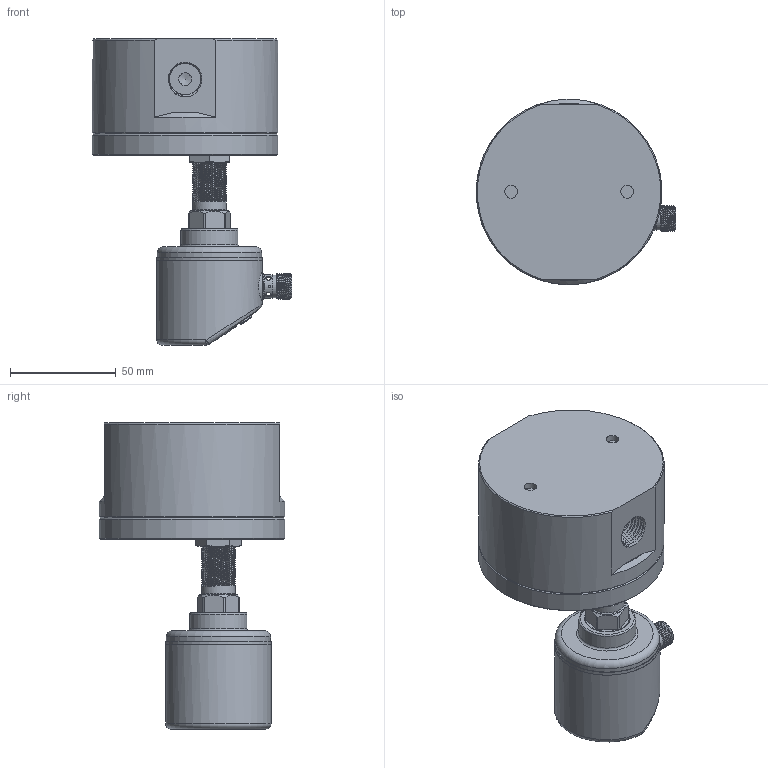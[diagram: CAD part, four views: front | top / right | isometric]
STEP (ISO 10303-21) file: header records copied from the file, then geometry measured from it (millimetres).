
FILE_DESCRIPTION (( 'STEP AP214' ), '1' );
FILE_NAME ('喘謫霜講數-M4.STEP', '2024-09-18T01:50:31', ( '' ), ( '' ), 'SwSTEP 2.0', 'SolidWorks 2020', '' );
FILE_SCHEMA (( 'AUTOMOTIVE_DESIGN' ));
Length unit declared in the file: millimetre
Products named in the file (13): PVC躇猾菜; 偌瑩簽; 揤薯奻裔; 喘謫霜講數-M4; 翋极; 滅阨諉芛褲极1; 揤薯珆尨欶; M16蹟譫; 恦謫抻芛5; 1; M6蹟佪; 2; 抻芛俋蹟恇G1-4
Assembly tree (21 placements, depth 3):
  喘謫霜講數-M4
    1
    2
    M6蹟佪  x8
    翋极
      揤薯奻裔
      揤薯珆尨欶
      滅阨諉芛褲极1
      偌瑩簽  x3
      PVC躇猾菜
      抻芛俋蹟恇G1-4
      恦謫抻芛5
    M16蹟譫
Bounding box: 94.53 x 88 x 145 mm (x, y, z)
Volume: 351602.7 mm3; surface area: 83021.7 mm2
Topology: 20 solids, 20 shells, 2536 faces, 7172 edges, 4749 vertices
Faces by surface type: plane 1729, cylinder 673, cone 97, bspline 21, torus 12, sphere 4
Full cylindrical faces by diameter (mm): 1 x4, 1.2 x3, 1.8 x1, 2 x5, 2.5 x7, 2.8 x1, 4.3 x3, 4.5 x6, 4.915 x8, 6 x12, 7 x15, 7.2 x1, 8.5 x1, 9.75 x1, 10.5 x9, 10.7 x1, 10.8 x1, 10.9 x1, 11 x2, 12 x1, 14 x1, 14.3 x1, 14.4 x1, 14.8 x1, 16 x29, 17.34 x2, 17.4 x1, 21.24 x1, 21.3 x1, 24 x1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
Entity records: 33106 total; most frequent: CARTESIAN_POINT 17569, DIRECTION 2967, ORIENTED_EDGE 2966, EDGE_CURVE 1483, AXIS2_PLACEMENT_3D 1123, VERTEX_POINT 1045, EDGE_LOOP 888, FACE_OUTER_BOUND 731
